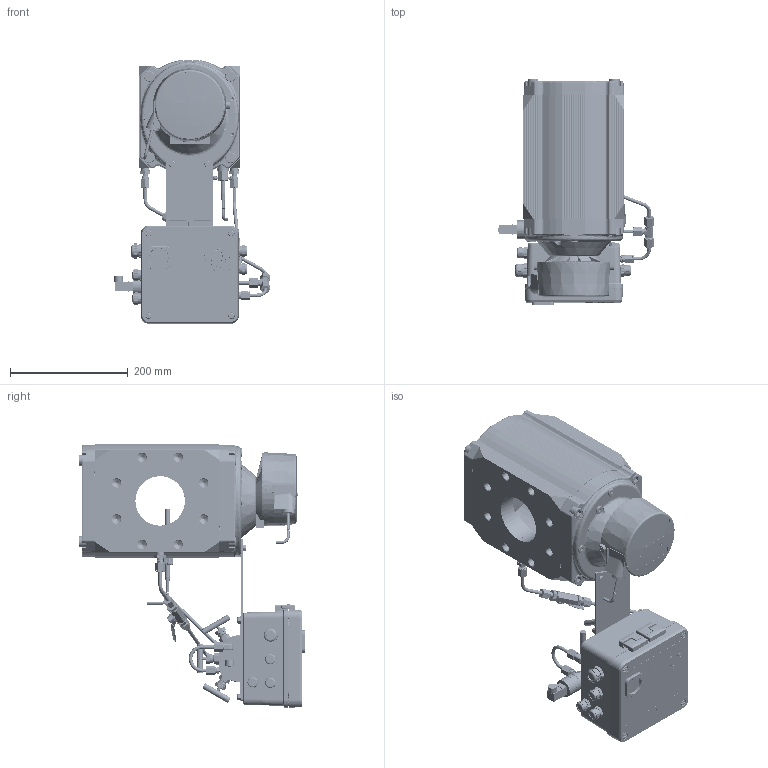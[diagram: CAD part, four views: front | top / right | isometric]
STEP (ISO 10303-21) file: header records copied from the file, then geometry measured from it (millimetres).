
FILE_DESCRIPTION(('STEP AP242'), '1');
FILE_NAME('ÑÃ-ÝÊÐ-Ð-160 ÐÂÃ-À Ñ ÏÏÄ ïðàâûé', '', ('UNSPECIFIED'), ('UNSPECIFIED'), 'C3D Converter', 'C3D Toolkit', '');
FILE_SCHEMA(('AP242_MANAGED_MODEL_BASED_3D_ENGINEERING_MIM_LF { 1 0 10303 442 1 1 4 }'));
Length unit declared in the file: millimetre
Bounding box: 264.58 x 384 x 446.5 mm (x, y, z)
Volume: 5606370 mm3; surface area: 1158616.5 mm2
Topology: 116 solids, 116 shells, 6000 faces, 15248 edges, 9790 vertices
Faces by surface type: plane 1861, cylinder 1632, extrusion 1105, cone 788, bspline 347, torus 233, sphere 34
Full cylindrical faces by diameter (mm): 1.95 x3, 2 x41, 2.459 x4, 2.5 x12, 2.791 x2, 3 x2, 3.1 x1, 3.2 x14, 3.242 x7, 3.3 x4, 3.45 x3, 3.459 x2, 4 x29, 4.134 x1, 4.2 x6, 4.3 x2, 4.5 x1, 4.917 x15, 5 x28, 5.5 x4, 5.8 x4, 6 x69, 6.2 x12, 6.6 x4, 7 x11, 8 x6, 8.1 x1, 8.5 x1, 8.77 x2, 9 x7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
Entity records: 349487 total; most frequent: CARTESIAN_POINT 168553, ORIENTED_EDGE 28078, DIRECTION 23015, EDGE_CURVE 14039, VERTEX_POINT 9717, AXIS2_PLACEMENT_3D 8178, EDGE_LOOP 7738, VECTOR 6659
